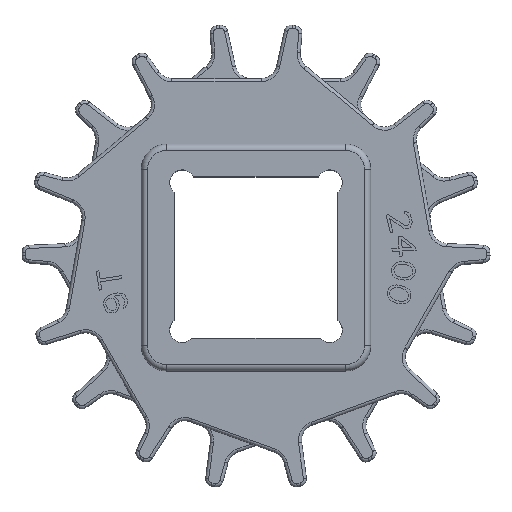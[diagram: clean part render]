
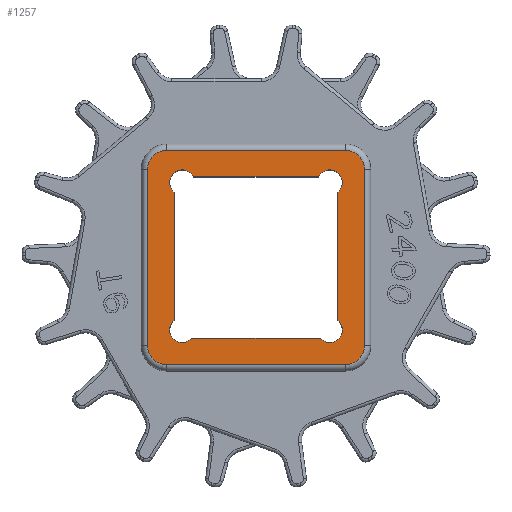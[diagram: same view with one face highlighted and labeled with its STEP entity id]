
A CAD part, top view. The second image highlights one B-rep face of the part: STEP entity #1257.
In plain terms, the highlighted planar face has unit normal (0, 0, 1).
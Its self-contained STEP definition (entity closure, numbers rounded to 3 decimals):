
#638=PLANE('',#13209);
#663=FACE_BOUND('',#2866,.T.);
#664=FACE_BOUND('',#2867,.T.);
#1257=ADVANCED_FACE('',(#663,#664),#638,.T.);
#2866=EDGE_LOOP('',(#6724,#6725,#6726,#6727,#6728,#6729,#6730,#6731));
#2867=EDGE_LOOP('',(#6732,#6733,#6734,#6735,#6736,#6737,#6738,#6739));
#2968=CIRCLE('',#12014,1.999);
#2970=CIRCLE('',#12017,1.999);
#2972=CIRCLE('',#12020,1.999);
#2975=CIRCLE('',#12024,1.999);
#3549=CIRCLE('',#13205,2.999);
#3550=CIRCLE('',#13206,2.999);
#3551=CIRCLE('',#13207,2.999);
#3552=CIRCLE('',#13208,2.999);
#6724=ORIENTED_EDGE('',*,*,#9864,.F.);
#6725=ORIENTED_EDGE('',*,*,#8221,.F.);
#6726=ORIENTED_EDGE('',*,*,#9865,.F.);
#6727=ORIENTED_EDGE('',*,*,#8217,.F.);
#6728=ORIENTED_EDGE('',*,*,#9866,.F.);
#6729=ORIENTED_EDGE('',*,*,#8227,.F.);
#6730=ORIENTED_EDGE('',*,*,#9867,.F.);
#6731=ORIENTED_EDGE('',*,*,#8213,.F.);
#6732=ORIENTED_EDGE('',*,*,#9868,.T.);
#6733=ORIENTED_EDGE('',*,*,#9869,.T.);
#6734=ORIENTED_EDGE('',*,*,#9870,.T.);
#6735=ORIENTED_EDGE('',*,*,#9871,.T.);
#6736=ORIENTED_EDGE('',*,*,#9872,.T.);
#6737=ORIENTED_EDGE('',*,*,#9873,.T.);
#6738=ORIENTED_EDGE('',*,*,#9874,.T.);
#6739=ORIENTED_EDGE('',*,*,#9875,.T.);
#7141=VERTEX_POINT('',#17187);
#7142=VERTEX_POINT('',#17189);
#7145=VERTEX_POINT('',#17196);
#7146=VERTEX_POINT('',#17198);
#7149=VERTEX_POINT('',#17205);
#7150=VERTEX_POINT('',#17207);
#7152=VERTEX_POINT('',#17213);
#7155=VERTEX_POINT('',#17218);
#8204=VERTEX_POINT('',#20714);
#8205=VERTEX_POINT('',#20715);
#8206=VERTEX_POINT('',#20717);
#8207=VERTEX_POINT('',#20719);
#8208=VERTEX_POINT('',#20721);
#8209=VERTEX_POINT('',#20723);
#8210=VERTEX_POINT('',#20725);
#8211=VERTEX_POINT('',#20727);
#8213=EDGE_CURVE('',#7141,#7142,#2968,.T.);
#8217=EDGE_CURVE('',#7145,#7146,#2970,.T.);
#8221=EDGE_CURVE('',#7149,#7150,#2972,.T.);
#8227=EDGE_CURVE('',#7155,#7152,#2975,.T.);
#9864=EDGE_CURVE('',#7150,#7141,#10980,.T.);
#9865=EDGE_CURVE('',#7146,#7149,#10981,.T.);
#9866=EDGE_CURVE('',#7152,#7145,#10982,.T.);
#9867=EDGE_CURVE('',#7142,#7155,#10983,.T.);
#9868=EDGE_CURVE('',#8204,#8205,#10984,.T.);
#9869=EDGE_CURVE('',#8205,#8206,#3549,.T.);
#9870=EDGE_CURVE('',#8206,#8207,#10985,.T.);
#9871=EDGE_CURVE('',#8207,#8208,#3550,.T.);
#9872=EDGE_CURVE('',#8208,#8209,#10986,.T.);
#9873=EDGE_CURVE('',#8209,#8210,#3551,.T.);
#9874=EDGE_CURVE('',#8210,#8211,#10987,.T.);
#9875=EDGE_CURVE('',#8211,#8204,#3552,.T.);
#10980=LINE('',#20709,#12005);
#10981=LINE('',#20710,#12006);
#10982=LINE('',#20711,#12007);
#10983=LINE('',#20712,#12008);
#10984=LINE('',#20713,#12009);
#10985=LINE('',#20718,#12010);
#10986=LINE('',#20722,#12011);
#10987=LINE('',#20726,#12012);
#12005=VECTOR('',#16796,1.);
#12006=VECTOR('',#16797,1.);
#12007=VECTOR('',#16798,1.);
#12008=VECTOR('',#16799,1.);
#12009=VECTOR('',#16800,1.);
#12010=VECTOR('',#16803,1.);
#12011=VECTOR('',#16806,1.);
#12012=VECTOR('',#16809,1.);
#12014=AXIS2_PLACEMENT_3D('',#17188,#13398,#13399);
#12017=AXIS2_PLACEMENT_3D('',#17197,#13406,#13407);
#12020=AXIS2_PLACEMENT_3D('',#17206,#13414,#13415);
#12024=AXIS2_PLACEMENT_3D('',#17219,#13425,#13426);
#13205=AXIS2_PLACEMENT_3D('',#20716,#16801,#16802);
#13206=AXIS2_PLACEMENT_3D('',#20720,#16804,#16805);
#13207=AXIS2_PLACEMENT_3D('',#20724,#16807,#16808);
#13208=AXIS2_PLACEMENT_3D('',#20728,#16810,#16811);
#13209=AXIS2_PLACEMENT_3D('',#20729,#16812,#16813);
#13398=DIRECTION('',(0.,0.,1.));
#13399=DIRECTION('',(1.,0.,0.));
#13406=DIRECTION('',(0.,0.,1.));
#13407=DIRECTION('',(1.,0.,0.));
#13414=DIRECTION('',(0.,0.,1.));
#13415=DIRECTION('',(1.,0.,0.));
#13425=DIRECTION('',(0.,0.,1.));
#13426=DIRECTION('',(1.,0.,0.));
#16796=DIRECTION('',(1.,0.,0.));
#16797=DIRECTION('',(0.,-1.,0.));
#16798=DIRECTION('',(-1.,0.,0.));
#16799=DIRECTION('',(0.,1.,0.));
#16800=DIRECTION('',(-1.,0.,0.));
#16801=DIRECTION('',(0.,0.,1.));
#16802=DIRECTION('',(1.,0.,0.));
#16803=DIRECTION('',(0.,-1.,0.));
#16804=DIRECTION('',(0.,0.,1.));
#16805=DIRECTION('',(1.,0.,0.));
#16806=DIRECTION('',(1.,0.,0.));
#16807=DIRECTION('',(0.,0.,1.));
#16808=DIRECTION('',(1.,0.,0.));
#16809=DIRECTION('',(0.,1.,0.));
#16810=DIRECTION('',(0.,0.,1.));
#16811=DIRECTION('',(1.,0.,0.));
#16812=DIRECTION('',(0.,0.,1.));
#16813=DIRECTION('',(-1.,0.,0.));
#17187=CARTESIAN_POINT('',(10.169,40.913,13.385));
#17188=CARTESIAN_POINT('',(11.695,42.205,13.385));
#17189=CARTESIAN_POINT('',(12.987,43.731,13.385));
#17196=CARTESIAN_POINT('',(-9.904,66.484,13.385));
#17197=CARTESIAN_POINT('',(-11.695,65.595,13.385));
#17198=CARTESIAN_POINT('',(-12.987,64.069,13.385));
#17205=CARTESIAN_POINT('',(-12.987,43.731,13.385));
#17206=CARTESIAN_POINT('',(-11.695,42.205,13.385));
#17207=CARTESIAN_POINT('',(-10.169,40.913,13.385));
#17213=CARTESIAN_POINT('',(9.904,66.484,13.385));
#17218=CARTESIAN_POINT('',(12.987,64.069,13.385));
#17219=CARTESIAN_POINT('',(11.695,65.595,13.385));
#20709=CARTESIAN_POINT('',(0.,40.913,13.385));
#20710=CARTESIAN_POINT('',(-12.987,53.698,13.385));
#20711=CARTESIAN_POINT('',(0.,66.484,13.385));
#20712=CARTESIAN_POINT('',(12.987,53.698,13.385));
#20713=CARTESIAN_POINT('',(0.,70.69,13.385));
#20714=CARTESIAN_POINT('',(14.194,70.69,13.385));
#20715=CARTESIAN_POINT('',(-14.194,70.69,13.385));
#20716=CARTESIAN_POINT('',(-14.194,67.691,13.385));
#20717=CARTESIAN_POINT('',(-17.193,67.691,13.385));
#20718=CARTESIAN_POINT('',(-17.193,53.9,13.385));
#20719=CARTESIAN_POINT('',(-17.193,39.706,13.385));
#20720=CARTESIAN_POINT('',(-14.194,39.706,13.385));
#20721=CARTESIAN_POINT('',(-14.194,36.707,13.385));
#20722=CARTESIAN_POINT('',(0.,36.707,13.385));
#20723=CARTESIAN_POINT('',(14.194,36.707,13.385));
#20724=CARTESIAN_POINT('',(14.194,39.706,13.385));
#20725=CARTESIAN_POINT('',(17.193,39.706,13.385));
#20726=CARTESIAN_POINT('',(17.193,53.9,13.385));
#20727=CARTESIAN_POINT('',(17.193,67.691,13.385));
#20728=CARTESIAN_POINT('',(14.194,67.691,13.385));
#20729=CARTESIAN_POINT('',(0.,53.9,13.385));
